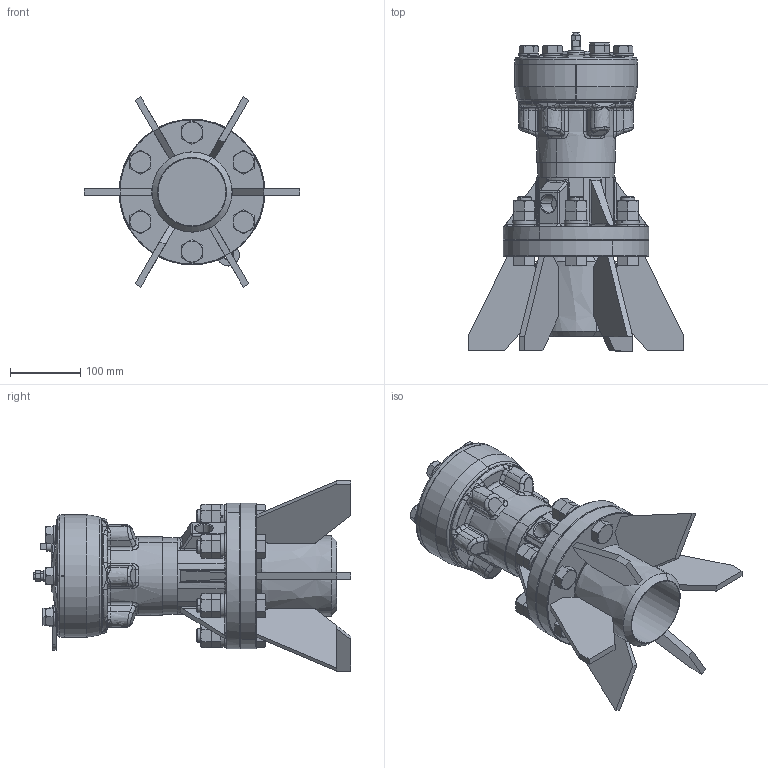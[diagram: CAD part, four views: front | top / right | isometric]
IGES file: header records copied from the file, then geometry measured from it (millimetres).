
Start section: SolidWorks IGES file using analytic representation for surfaces
Global section: file name: V:\WORK\08133\HP 寸法図\knocker\RKV100PAR\test_F59000A-000 RKV100PAR_defeature.IGS,  ; native system: SolidWorks 2018; preprocessor: SolidWorks 2018; author: n-udagawa; date: 230117.092659; units: millimetre
Bounding box: 308.3 x 453.8 x 271.5 mm (x, y, z)
Surface area: 487907.8 mm2 (no closed solid volume)
Topology: 0 solids, 0 shells, 1061 faces, 17361 edges, 19767 vertices
Faces by surface type: bspline 628, revolution 433
